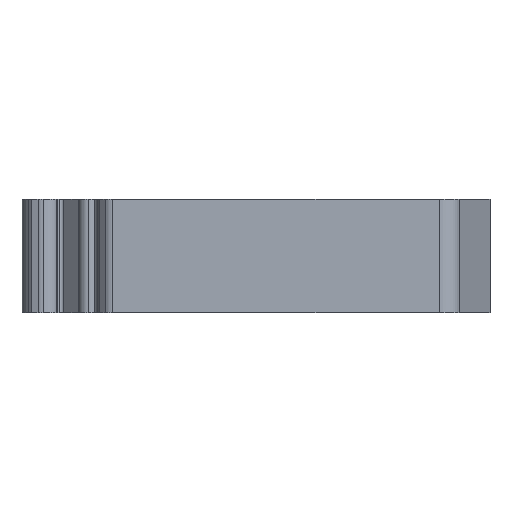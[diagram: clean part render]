
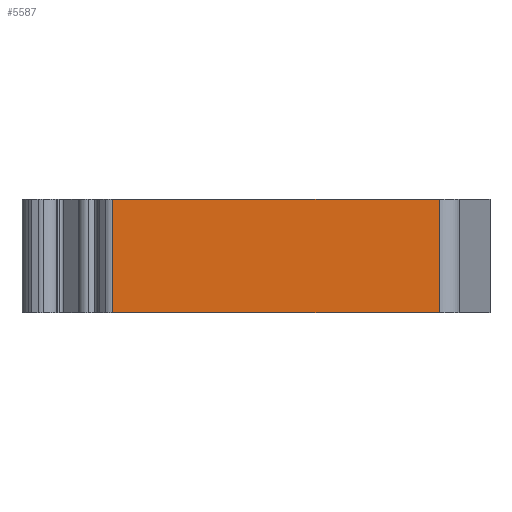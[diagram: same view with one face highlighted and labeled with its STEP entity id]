
A CAD part, left-side view. The second image highlights one B-rep face of the part: STEP entity #5587.
In plain terms, the highlighted planar face has unit normal (-1, 0, 0).
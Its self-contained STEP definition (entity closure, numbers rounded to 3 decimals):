
#166 = FACE_OUTER_BOUND ( 'NONE', #6939, .T. ) ;
#607 = EDGE_CURVE ( 'NONE', #1655, #5270, #4652, .T. ) ;
#704 = CARTESIAN_POINT ( 'NONE',  ( -28.92, -39.133, 5.3 ) ) ;
#1012 = CARTESIAN_POINT ( 'NONE',  ( -28.92, -39.133, 5.3 ) ) ;
#1163 = CARTESIAN_POINT ( 'NONE',  ( -28.92, -8.508, 5.3 ) ) ;
#1655 = VERTEX_POINT ( 'NONE', #6956 ) ;
#1701 = EDGE_CURVE ( 'NONE', #4944, #1655, #6822, .T. ) ;
#1745 = VERTEX_POINT ( 'NONE', #1163 ) ;
#1866 = DIRECTION ( 'NONE',  ( 0., 1., 0. ) ) ;
#2260 = ORIENTED_EDGE ( 'NONE', *, *, #3373, .T. ) ;
#2348 = ORIENTED_EDGE ( 'NONE', *, *, #5752, .T. ) ;
#2829 = AXIS2_PLACEMENT_3D ( 'NONE', #1012, #6665, #7374 ) ;
#3021 = PLANE ( 'NONE',  #2829 ) ;
#3135 = VECTOR ( 'NONE', #6908, 1000. ) ;
#3373 = EDGE_CURVE ( 'NONE', #4944, #1745, #8843, .T. ) ;
#3828 = VECTOR ( 'NONE', #8311, 1000. ) ;
#4434 = CARTESIAN_POINT ( 'NONE',  ( -28.92, -8.508, -5.3 ) ) ;
#4468 = DIRECTION ( 'NONE',  ( 0., 0., -1. ) ) ;
#4652 = LINE ( 'NONE', #7603, #3828 ) ;
#4944 = VERTEX_POINT ( 'NONE', #704 ) ;
#5267 = CARTESIAN_POINT ( 'NONE',  ( -28.92, -39.133, 5.3 ) ) ;
#5270 = VERTEX_POINT ( 'NONE', #4434 ) ;
#5587 = ADVANCED_FACE ( 'NONE', ( #166 ), #3021, .T. ) ;
#5752 = EDGE_CURVE ( 'NONE', #1745, #5270, #8832, .T. ) ;
#6665 = DIRECTION ( 'NONE',  ( -1., 0., 0. ) ) ;
#6775 = CARTESIAN_POINT ( 'NONE',  ( -28.92, -39.133, 5.3 ) ) ;
#6822 = LINE ( 'NONE', #6775, #3135 ) ;
#6908 = DIRECTION ( 'NONE',  ( 0., 0., -1. ) ) ;
#6939 = EDGE_LOOP ( 'NONE', ( #7951, #9200, #2260, #2348 ) ) ;
#6956 = CARTESIAN_POINT ( 'NONE',  ( -28.92, -39.133, -5.3 ) ) ;
#7374 = DIRECTION ( 'NONE',  ( 0., -1., 0. ) ) ;
#7424 = CARTESIAN_POINT ( 'NONE',  ( -28.92, -8.508, 5.3 ) ) ;
#7603 = CARTESIAN_POINT ( 'NONE',  ( -28.92, -39.133, -5.3 ) ) ;
#7908 = VECTOR ( 'NONE', #1866, 1000. ) ;
#7951 = ORIENTED_EDGE ( 'NONE', *, *, #607, .F. ) ;
#8311 = DIRECTION ( 'NONE',  ( 0., 1., 0. ) ) ;
#8832 = LINE ( 'NONE', #7424, #8852 ) ;
#8843 = LINE ( 'NONE', #5267, #7908 ) ;
#8852 = VECTOR ( 'NONE', #4468, 1000. ) ;
#9200 = ORIENTED_EDGE ( 'NONE', *, *, #1701, .F. ) ;
